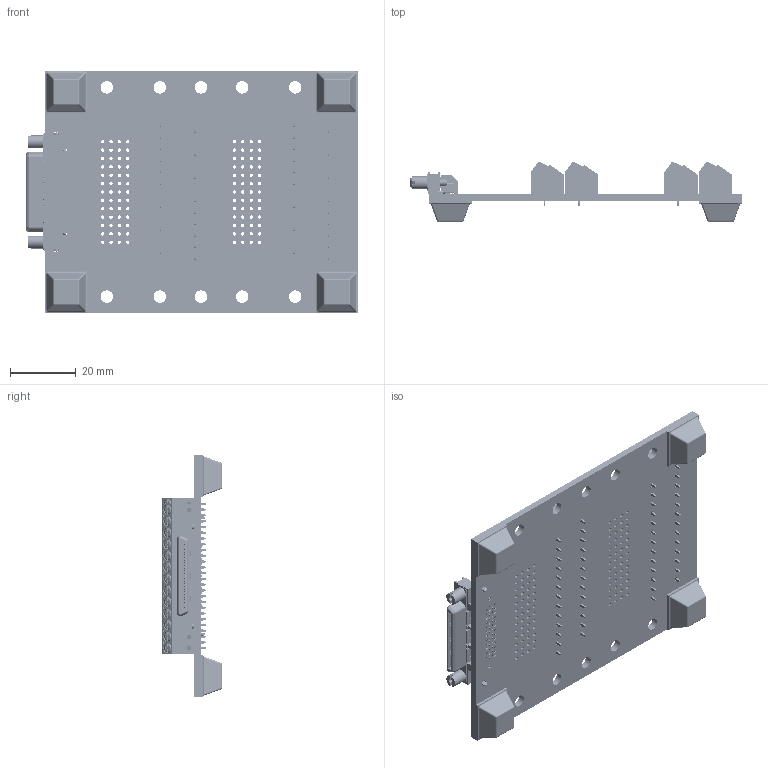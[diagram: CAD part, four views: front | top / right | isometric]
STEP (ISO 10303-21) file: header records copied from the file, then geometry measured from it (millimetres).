
FILE_DESCRIPTION (( 'STEP AP214' ), '1' );
FILE_NAME ('brkavh50fv1-r-ft_rev_a.step', '2024-02-08T16:42:55', ( '' ), ( '' ), 'SwSTEP 2.0', 'SolidWorks 2018', '' );
FILE_SCHEMA (( 'AUTOMOTIVE_DESIGN' ));
Length unit declared in the file: inch
Products named in the file (6): Square Rubber Feet; brkavh50fv1-r-ft_rev_a; three_position_angled_green_screw_terminal; 50_pin_vhdci_connector_js; brkavh50fv1_pcb; two_position_angled_green_screw_terminal
Assembly tree (26 placements, depth 2):
  brkavh50fv1-r-ft_rev_a
    brkavh50fv1_pcb
    50_pin_vhdci_connector_js
    three_position_angled_green_screw_terminal  x12
    two_position_angled_green_screw_terminal  x8
    Square Rubber Feet  x4
Bounding box: 100.73 x 18.06 x 73.66 mm (x, y, z)
Volume: 31244.7 mm3; surface area: 36067.7 mm2
Topology: 28 solids, 56 shells, 10689 faces, 28535 edges, 18643 vertices
Faces by surface type: plane 7303, bspline 1483, cylinder 1395, torus 323, cone 169, sphere 16
Entity records: 313988 total; most frequent: CARTESIAN_POINT 101312, ORIENTED_EDGE 31202, DIRECTION 24045, EDGE_CURVE 15601, VECTOR 11225, LINE 11225, VERTEX_POINT 10302, EDGE_LOOP 6599
